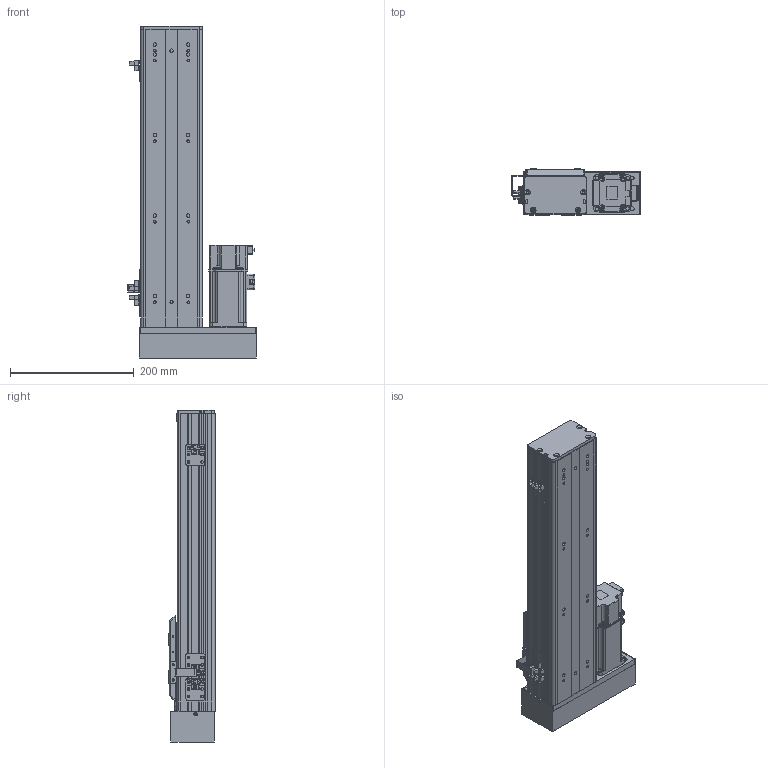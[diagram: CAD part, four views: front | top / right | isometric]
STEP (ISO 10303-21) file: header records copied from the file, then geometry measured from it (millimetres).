
FILE_DESCRIPTION (( 'STEP AP203' ), '1' );
FILE_NAME ('BOSW100-300-1610-1P-LM-M400W-O-S3（方程式2016）.step', '2020-10-10T06:53:19', ( '' ), ( '' ), 'SwSTEP 2.0', 'SolidWorks 2016', '' );
FILE_SCHEMA (( 'CONFIG_CONTROL_DESIGN' ));
Length unit declared in the file: millimetre
Products named in the file (14): BOSW-100-綴裔啣; BOSW-100-1P-DM-宽轨-钢带-300客户图纸; S400W(SMA-L040); AIMS(W)-100-LM&RM-肮祭謫欶; 新结构AIMSW-100-1P-宽&高轨共用-滑动座上组件; 放大器内置U型微型光电传感器PM-L65; BOSW100-300-1610-1P-LM-M400W-O-S3（方程式2016）; BOSW&TW-100-1P-賑雄釱欶; BOSW&TW-100-詩湍揤沭(陔賦凳); 俋境嫖覜嘐隅啣; boS-100-LM&RM-三菱M400W马达板-宽轨; BOSW-100-1P-DM-宽轨-侧板-300客户图纸; BOSW&TW-100-俋离覜茼え; BOSW-100-1P-DM-300諦誧芞
Assembly tree (19 placements, depth 2):
  BOSW100-300-1610-1P-LM-M400W-O-S3（方程式2016）
    BOSW-100-1P-DM-300諦誧芞
    BOSW-100-綴裔啣
    新结构AIMSW-100-1P-宽&高轨共用-滑动座上组件
    S400W(SMA-L040)
    BOSW&TW-100-詩湍揤沭(陔賦凳)  x2
    BOSW&TW-100-1P-賑雄釱欶
    BOSW&TW-100-俋离覜茼え
    俋境嫖覜嘐隅啣  x3
    放大器内置U型微型光电传感器PM-L65  x3
    BOSW-100-1P-DM-宽轨-侧板-300客户图纸  x2
    BOSW-100-1P-DM-宽轨-钢带-300客户图纸
    AIMS(W)-100-LM&RM-肮祭謫欶
    boS-100-LM&RM-三菱M400W马达板-宽轨
Bounding box: 207.9 x 75 x 536 mm (x, y, z)
Volume: 1350959.6 mm3; surface area: 664684.6 mm2
Topology: 19 solids, 20 shells, 2509 faces, 6621 edges, 4223 vertices
Faces by surface type: plane 1239, cylinder 784, bspline 271, cone 167, torus 36, sphere 12
Entity records: 68696 total; most frequent: CARTESIAN_POINT 20648, ORIENTED_EDGE 9782, DIRECTION 9459, EDGE_CURVE 4891, AXIS2_PLACEMENT_3D 3345, VERTEX_POINT 3125, VECTOR 2769, LINE 2769
